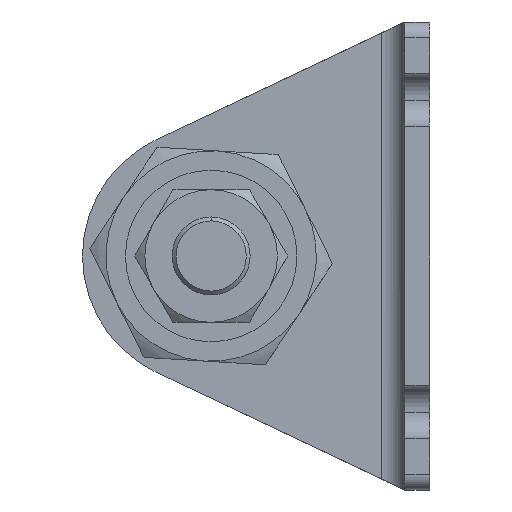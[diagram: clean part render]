
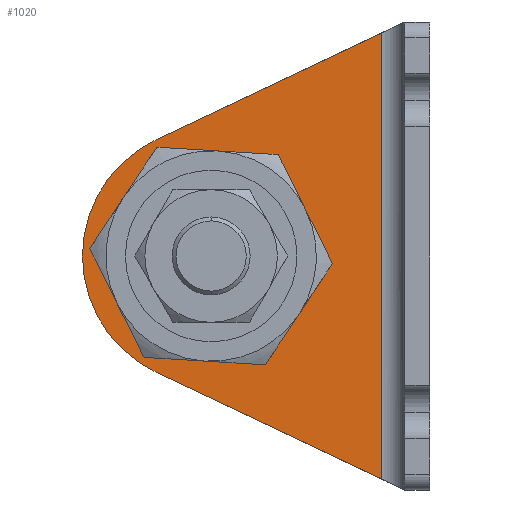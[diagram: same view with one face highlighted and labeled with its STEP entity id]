
A CAD part, left-side view. The second image highlights one B-rep face of the part: STEP entity #1020.
In plain terms, the highlighted planar face has unit normal (-1, 0, 0) as drawn and (1, 0, 0) by its records, which use the part's own axes.
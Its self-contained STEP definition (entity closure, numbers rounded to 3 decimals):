
#67 = VERTEX_POINT ( 'NONE', #3505 ) ;
#133 = CARTESIAN_POINT ( 'NONE',  ( 3.2, 28., -30. ) ) ;
#134 = EDGE_CURVE ( 'NONE', #3671, #2044, #2628, .T. ) ;
#219 = VECTOR ( 'NONE', #3255, 1000. ) ;
#388 = ORIENTED_EDGE ( 'NONE', *, *, #4050, .T. ) ;
#444 = ORIENTED_EDGE ( 'NONE', *, *, #853, .F. ) ;
#489 = EDGE_LOOP ( 'NONE', ( #890, #580 ) ) ;
#511 = AXIS2_PLACEMENT_3D ( 'NONE', #1425, #3982, #820 ) ;
#580 = ORIENTED_EDGE ( 'NONE', *, *, #134, .F. ) ;
#615 = CARTESIAN_POINT ( 'NONE',  ( 3.2, 35.062, -44.913 ) ) ;
#625 = LINE ( 'NONE', #843, #1370 ) ;
#820 = DIRECTION ( 'NONE',  ( 0., 1., 0. ) ) ;
#843 = CARTESIAN_POINT ( 'NONE',  ( 3.2, 3.2, -60. ) ) ;
#849 = AXIS2_PLACEMENT_3D ( 'NONE', #133, #2675, #1412 ) ;
#853 = EDGE_CURVE ( 'NONE', #2189, #2614, #1215, .T. ) ;
#890 = ORIENTED_EDGE ( 'NONE', *, *, #892, .F. ) ;
#892 = EDGE_CURVE ( 'NONE', #2044, #3671, #3699, .T. ) ;
#1003 = DIRECTION ( 'NONE',  ( 0., 0.904, -0.428 ) ) ;
#1020 = ADVANCED_FACE ( 'NONE', ( #1882, #2327 ), #2995, .T. ) ;
#1068 = EDGE_CURVE ( 'NONE', #67, #2944, #625, .T. ) ;
#1121 = DIRECTION ( 'NONE',  ( 0., 1., 0. ) ) ;
#1161 = VECTOR ( 'NONE', #1003, 1000. ) ;
#1215 = LINE ( 'NONE', #3835, #1161 ) ;
#1297 = CIRCLE ( 'NONE', #511, 16.5 ) ;
#1330 = EDGE_LOOP ( 'NONE', ( #444, #1542, #1833, #388, #2649 ) ) ;
#1370 = VECTOR ( 'NONE', #2469, 1000. ) ;
#1412 = DIRECTION ( 'NONE',  ( 0., 1., 0. ) ) ;
#1425 = CARTESIAN_POINT ( 'NONE',  ( 3.2, 28., -30. ) ) ;
#1542 = ORIENTED_EDGE ( 'NONE', *, *, #3390, .T. ) ;
#1593 = CARTESIAN_POINT ( 'NONE',  ( 3.2, 35.062, -15.087 ) ) ;
#1655 = DIRECTION ( 'NONE',  ( 1., 0., 0. ) ) ;
#1665 = CARTESIAN_POINT ( 'NONE',  ( 3.2, 28., -30. ) ) ;
#1779 = DIRECTION ( 'NONE',  ( 0., 1., 0. ) ) ;
#1815 = LINE ( 'NONE', #3468, #219 ) ;
#1833 = ORIENTED_EDGE ( 'NONE', *, *, #1068, .T. ) ;
#1882 = FACE_OUTER_BOUND ( 'NONE', #1330, .T. ) ;
#1934 = VERTEX_POINT ( 'NONE', #2410 ) ;
#1964 = EDGE_CURVE ( 'NONE', #1934, #2614, #2516, .T. ) ;
#2044 = VERTEX_POINT ( 'NONE', #2881 ) ;
#2126 = AXIS2_PLACEMENT_3D ( 'NONE', #3264, #1655, #1779 ) ;
#2189 = VERTEX_POINT ( 'NONE', #2377 ) ;
#2327 = FACE_BOUND ( 'NONE', #489, .T. ) ;
#2377 = CARTESIAN_POINT ( 'NONE',  ( 3.2, 6.2, -1.421 ) ) ;
#2410 = CARTESIAN_POINT ( 'NONE',  ( 3.2, 44.5, -30. ) ) ;
#2469 = DIRECTION ( 'NONE',  ( 0., 0.904, 0.428 ) ) ;
#2516 = CIRCLE ( 'NONE', #849, 16.5 ) ;
#2614 = VERTEX_POINT ( 'NONE', #1593 ) ;
#2628 = CIRCLE ( 'NONE', #2126, 11.5 ) ;
#2649 = ORIENTED_EDGE ( 'NONE', *, *, #1964, .T. ) ;
#2675 = DIRECTION ( 'NONE',  ( 1., 0., 0. ) ) ;
#2799 = AXIS2_PLACEMENT_3D ( 'NONE', #3945, #2939, #1121 ) ;
#2881 = CARTESIAN_POINT ( 'NONE',  ( 3.2, 39.5, -30. ) ) ;
#2939 = DIRECTION ( 'NONE',  ( 1., 0., 0. ) ) ;
#2944 = VERTEX_POINT ( 'NONE', #615 ) ;
#2995 = PLANE ( 'NONE',  #2799 ) ;
#3208 = DIRECTION ( 'NONE',  ( 0., 1., 0. ) ) ;
#3255 = DIRECTION ( 'NONE',  ( 0., 0., -1. ) ) ;
#3264 = CARTESIAN_POINT ( 'NONE',  ( 3.2, 28., -30. ) ) ;
#3376 = AXIS2_PLACEMENT_3D ( 'NONE', #1665, #3822, #3208 ) ;
#3390 = EDGE_CURVE ( 'NONE', #2189, #67, #1815, .T. ) ;
#3468 = CARTESIAN_POINT ( 'NONE',  ( 3.2, 6.2, -60. ) ) ;
#3505 = CARTESIAN_POINT ( 'NONE',  ( 3.2, 6.2, -58.579 ) ) ;
#3671 = VERTEX_POINT ( 'NONE', #3829 ) ;
#3699 = CIRCLE ( 'NONE', #3376, 11.5 ) ;
#3822 = DIRECTION ( 'NONE',  ( 1., 0., 0. ) ) ;
#3829 = CARTESIAN_POINT ( 'NONE',  ( 3.2, 16.5, -30. ) ) ;
#3835 = CARTESIAN_POINT ( 'NONE',  ( 3.2, 26.408, -10.99 ) ) ;
#3945 = CARTESIAN_POINT ( 'NONE',  ( 3.2, 3.2, -60. ) ) ;
#3982 = DIRECTION ( 'NONE',  ( 1., 0., 0. ) ) ;
#4050 = EDGE_CURVE ( 'NONE', #2944, #1934, #1297, .T. ) ;
